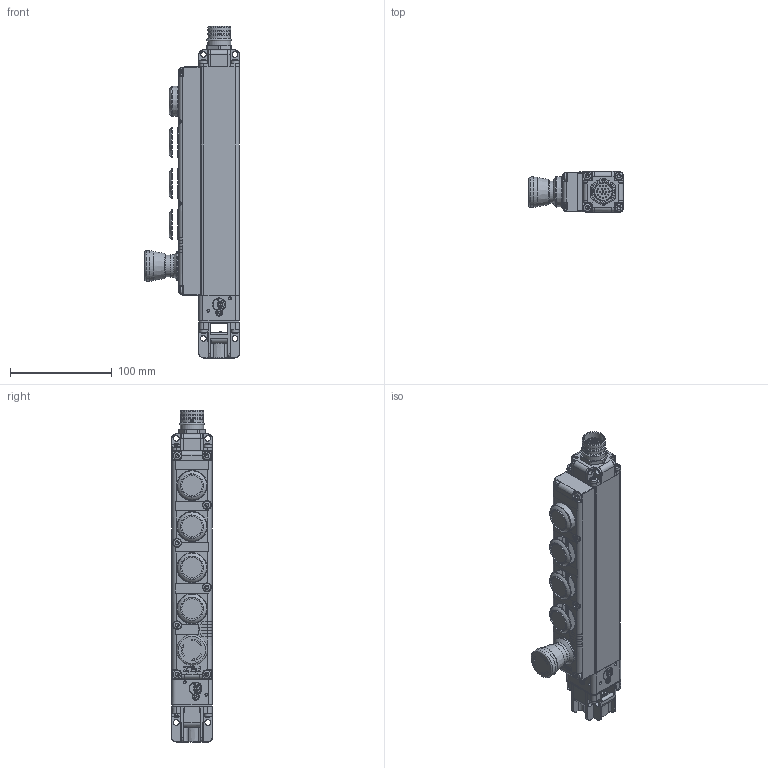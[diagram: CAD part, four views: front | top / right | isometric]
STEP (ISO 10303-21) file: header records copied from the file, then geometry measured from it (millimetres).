
FILE_DESCRIPTION(/* description */ (''),/* implementation_level */ '2;1');
FILE_NAME(/* name */ '2037982_A_PSENmg1-B-xxxxx-Rxxx-Ux-D.stp',/* time_stamp */ '2025-07-18T07:30:19+02:00',/* author */ ('p.rimml'),/* organization */ (''),/* preprocessor_version */ 'ST-DEVELOPER v20',/* originating_system */ 'Autodesk Inventor 2024',/* authorisation */ '');
FILE_SCHEMA (('AUTOMOTIVE_DESIGN { 1 0 10303 214 3 1 1 }'));
Products named in the file (1): 2037982
Bounding box: 93.5 x 40 x 326.9 mm (x, y, z)
Volume: 657479.4 mm3; surface area: 87775.9 mm2
Topology: 1 solids, 1 shells, 2041 faces, 5139 edges, 3140 vertices
Faces by surface type: cylinder 694, plane 459, bspline 333, cone 276, torus 203, sphere 76
Full cylindrical faces by diameter (mm): 1 x16, 1.5 x3, 2.693 x3, 3.1 x3, 5.5 x11, 8.2 x4, 9 x1, 10 x1, 12 x1, 12.15 x1, 16.1 x1, 19.85 x4, 20 x1, 21.5 x1, 21.7 x3, 22.2 x1, 22.55 x1, 22.642 x4, 22.8 x4, 28 x1, 28.2 x1, 28.6 x4
Entity records: 77303 total; most frequent: CARTESIAN_POINT 30411, ORIENTED_EDGE 10176, DIRECTION 9322, EDGE_CURVE 5088, AXIS2_PLACEMENT_3D 3776, VERTEX_POINT 3140, EDGE_LOOP 2170, FACE_OUTER_BOUND 2041
